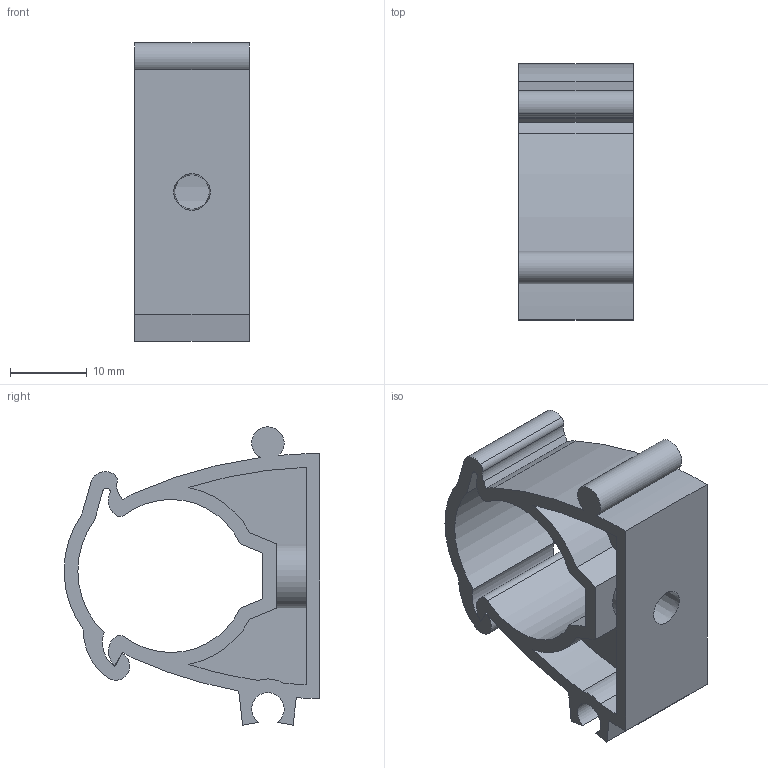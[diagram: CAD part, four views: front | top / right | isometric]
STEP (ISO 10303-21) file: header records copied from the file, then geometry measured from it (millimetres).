
FILE_DESCRIPTION(('STEP AP203'), '1');
FILE_NAME('ÂÐ.745222.002 - VT.KP.F.020', '', ('UNSPECIFIED'), ('UNSPECIFIED'), 'C3D Converter', 'C3D Toolkit', '');
FILE_SCHEMA(('CONFIG_CONTROL_DESIGN'));
Length unit declared in the file: millimetre
Products named in the file (1): ВР.745222.002
Bounding box: 15 x 33.44 x 39 mm (x, y, z)
Volume: 5104 mm3; surface area: 5993.9 mm2
Topology: 1 solids, 1 shells, 170 faces, 468 edges, 312 vertices
Faces by surface type: plane 67, extrusion 65, cylinder 37, cone 1
Entity records: 5537 total; most frequent: CARTESIAN_POINT 1340, ORIENTED_EDGE 934, DIRECTION 690, EDGE_CURVE 467, VECTOR 326, VERTEX_POINT 312, LINE 261, B_SPLINE_CURVE_WITH_KNOTS 195
